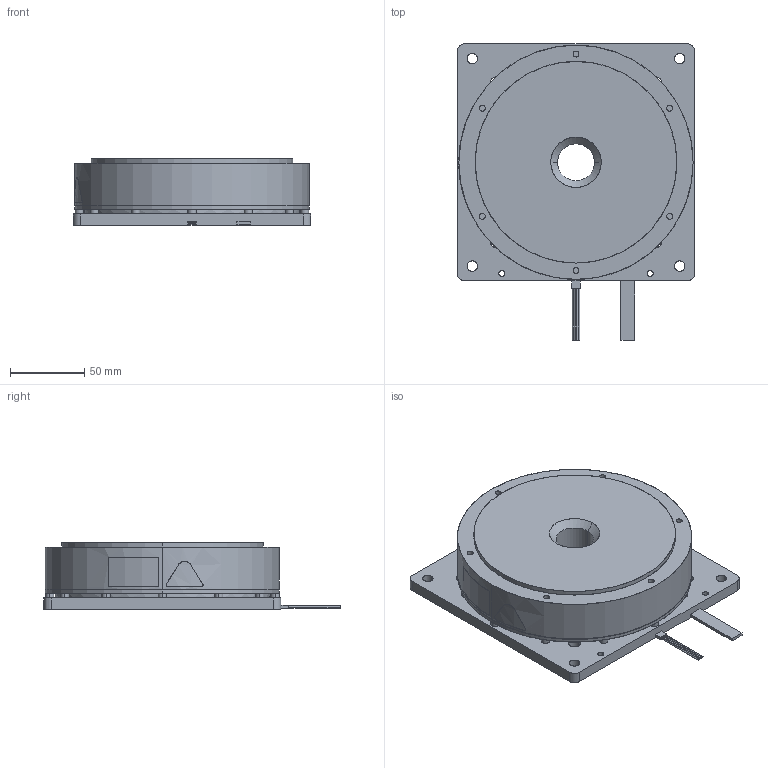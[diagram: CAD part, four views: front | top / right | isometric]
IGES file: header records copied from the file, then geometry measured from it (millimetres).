
Start section: SolidWorks IGES file using analytic representation for surfaces
Global section: file name: \\Sv00376\技術2\Y_安川電機\1512027_3Dモデル作成\data\高機械精度\SGM7D-01GFC42\提出準備\sgm7d_01gfc42.IGS; native system: SolidWorks 2010; preprocessor: SolidWorks 2010; author: 00386; date: 160122.133347; units: millimetre
Bounding box: 160 x 200 x 45 mm (x, y, z)
Surface area: 87196.2 mm2 (no closed solid volume)
Topology: 0 solids, 0 shells, 141 faces, 3058 edges, 3058 vertices
Faces by surface type: revolution 84, bspline 57
